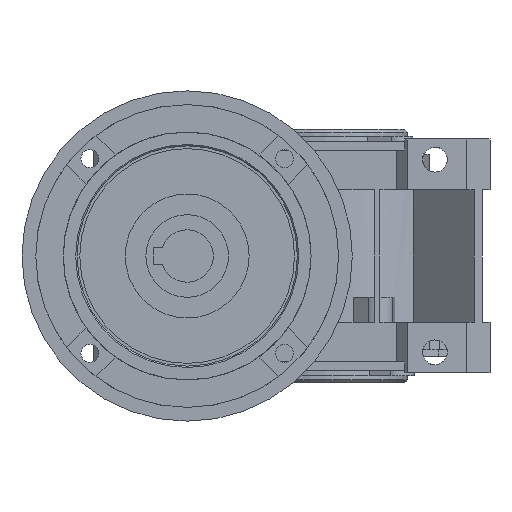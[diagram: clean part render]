
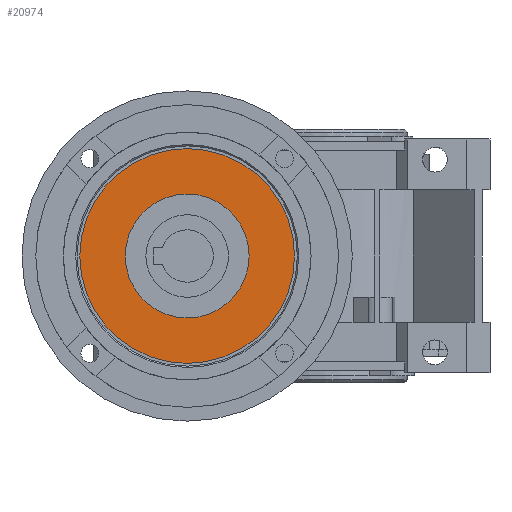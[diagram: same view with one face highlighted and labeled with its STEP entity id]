
A CAD part, left-side view. The second image highlights one B-rep face of the part: STEP entity #20974.
In plain terms, the highlighted planar face has unit normal (-1, 0, 0).
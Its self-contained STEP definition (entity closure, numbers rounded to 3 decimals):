
#962 = CARTESIAN_POINT ( 'NONE',  ( -66.5, 69.5, 0. ) ) ;
#2345 = AXIS2_PLACEMENT_3D ( 'NONE', #16622, #4219, #18724 ) ;
#2424 = CARTESIAN_POINT ( 'NONE',  ( -66.5, 50., -39. ) ) ;
#3212 = AXIS2_PLACEMENT_3D ( 'NONE', #18893, #6448, #20947 ) ;
#3620 = FACE_BOUND ( 'NONE', #6916, .T. ) ;
#3939 = ORIENTED_EDGE ( 'NONE', *, *, #20684, .T. ) ;
#4219 = DIRECTION ( 'NONE',  ( -1., 0., 0. ) ) ;
#6448 = DIRECTION ( 'NONE',  ( 1., 0., 0. ) ) ;
#6620 = EDGE_CURVE ( 'NONE', #9162, #9162, #17003, .T. ) ;
#6916 = EDGE_LOOP ( 'NONE', ( #10110 ) ) ;
#7377 = AXIS2_PLACEMENT_3D ( 'NONE', #962, #25853, #13434 ) ;
#9102 = FACE_OUTER_BOUND ( 'NONE', #16276, .T. ) ;
#9162 = VERTEX_POINT ( 'NONE', #24784 ) ;
#9437 = CIRCLE ( 'NONE', #2345, 39. ) ;
#10110 = ORIENTED_EDGE ( 'NONE', *, *, #6620, .T. ) ;
#11345 = PLANE ( 'NONE',  #7377 ) ;
#13434 = DIRECTION ( 'NONE',  ( 0., 0., -1. ) ) ;
#16276 = EDGE_LOOP ( 'NONE', ( #3939 ) ) ;
#16622 = CARTESIAN_POINT ( 'NONE',  ( -66.5, 50., 0. ) ) ;
#17003 = CIRCLE ( 'NONE', #3212, 22.5 ) ;
#18724 = DIRECTION ( 'NONE',  ( 0., 0., -1. ) ) ;
#18893 = CARTESIAN_POINT ( 'NONE',  ( -66.5, 50., 0. ) ) ;
#20684 = EDGE_CURVE ( 'NONE', #23439, #23439, #9437, .T. ) ;
#20947 = DIRECTION ( 'NONE',  ( 0., 0., -1. ) ) ;
#20974 = ADVANCED_FACE ( 'NONE', ( #3620, #9102 ), #11345, .T. ) ;
#23439 = VERTEX_POINT ( 'NONE', #2424 ) ;
#24784 = CARTESIAN_POINT ( 'NONE',  ( -66.5, 50., -22.5 ) ) ;
#25853 = DIRECTION ( 'NONE',  ( -1., 0., 0. ) ) ;
